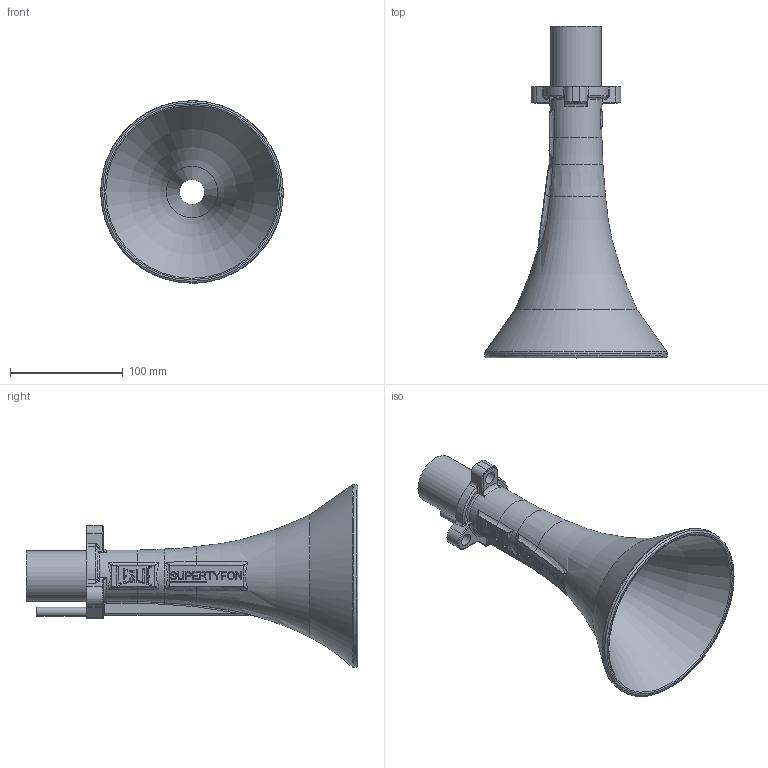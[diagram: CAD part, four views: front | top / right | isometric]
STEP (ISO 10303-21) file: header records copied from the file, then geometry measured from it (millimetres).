
FILE_DESCRIPTION(/* description */ (''),/* implementation_level */ '2;1');
FILE_NAME(/* name */ 'E:/hidden/Engineering Projects/Leslie Controls SuperTyfon/CAD/Components/27581 #44 Horn, Complete.step',/* time_stamp */ '2022-08-18T19:38:20+10:00',/* author */ (''),/* organization */ (''),/* preprocessor_version */ 'ST-DEVELOPER v19',/* originating_system */ 'Autodesk Translation Framework v11.7.0.108',/* authorisation */ '');
FILE_SCHEMA (('AUTOMOTIVE_DESIGN { 1 0 10303 214 3 1 1 }'));
Length unit declared in the file: inch
Products named in the file (3): #22315; #22316; #22317
Assembly tree (2 placements, depth 2):
  #22315
    #22316
    #22317
Bounding box: 161.93 x 294.48 x 161.93 mm (x, y, z)
Volume: 308630.1 mm3; surface area: 141240.4 mm2
Topology: 2 solids, 2 shells, 538 faces, 1450 edges, 921 vertices
Faces by surface type: plane 217, bspline 179, cone 58, cylinder 54, torus 26, sphere 4
Full cylindrical faces by diameter (mm): 2.778 x1, 6.35 x1, 7.938 x1, 7.987 x1, 11.112 x3, 44.45 x1, 161.925 x1
Entity records: 22329 total; most frequent: CARTESIAN_POINT 10089, ORIENTED_EDGE 2854, DIRECTION 1959, EDGE_CURVE 1427, VERTEX_POINT 921, LINE 679, VECTOR 679, AXIS2_PLACEMENT_3D 640
